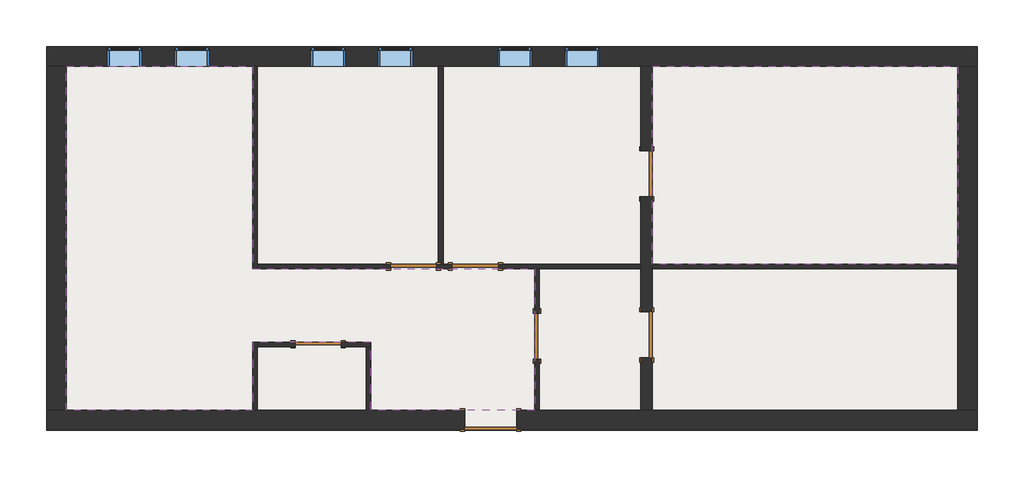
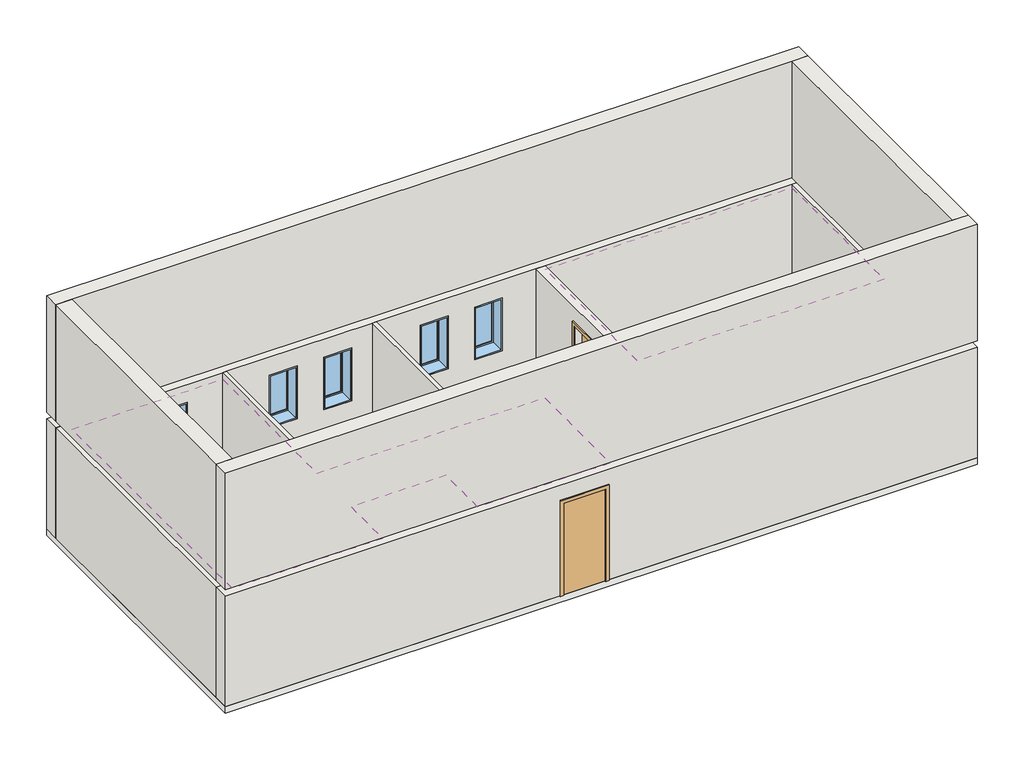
# One storey: 12 walls, 7 doors, 6 windows, 2 coverings, 1 slab.
"""IFC4 building model written with IfcOpenShell, lengths in millimetres."""

from ifc_helpers import new_model, si_unit, frame, origin, origin_with_axes, place, context, project, spatial, polyline, outline, extrude, faceted_brep, transform, mapped, element, save
from components import door_526e4cd8, door_eee9776d, door_cbe18f88, door_70678a7c, window_2c28ef1d

model = new_model("IFC4")

# Units and contexts
model_context = context("Model", 3, world=origin())
ifc_project = project(units=[si_unit("LENGTHUNIT", "METRE", prefix="MILLI")], contexts=[model_context])

# Site, building, storey
site = spatial("IfcSite", under=ifc_project)
building = spatial("IfcBuilding", under=site)
storey = spatial("IfcBuildingStorey", under=building, Name="Уровень 1", Elevation=0.0)

# Coverings
placement = place(None, origin())
element("IfcCovering", 1, ObjectType="Сетка 600 x 1200 мм", at=placement, inside=storey, context=model_context, shape_type="SweptSolid", body=[
    extrude(outline(polyline([(3475.0, 1300.0), (3475.0, 95.0), (175.0, 95.0), (175.0, 6175.0), (3475.0, 6175.0), (3475.0, 2595.0), (8455.0, 2595.0), (8455.0, 95.0), (5555.0, 95.0), (5555.0, 1300.0), (3475.0, 1300.0)])), frame((0.0, 0.0, 2400.0), z_axis=(0.0, 0.0, 1.0), x_axis=(1.0, 0.0, 0.0)), (0.0, 0.0, 1.0), 52.0),
])
element("IfcCovering", 2, ObjectType="Сетка 600 x 1200 мм", at=placement, inside=storey, context=model_context, shape_type="SweptSolid", body=[
    extrude(outline(polyline([(15935.0, 2675.0), (10535.0, 2675.0), (10535.0, 6175.0), (15935.0, 6175.0), (15935.0, 2675.0)])), frame((0.0, 0.0, 2473.0), z_axis=(0.0, 0.0, 1.0), x_axis=(1.0, 0.0, 0.0)), (0.0, 0.0, 1.0), 52.0),
])

# Doors
door_shape = door_526e4cd8(model_context)
element("IfcDoor", 3, ObjectType="Одиночные-Щитовые : 0813 x 2134 мм", at=placement, inside=storey, context=model_context, shape_type="MappedRepresentation", body=[
    mapped(door_shape, transform((6313.5, 2635.0, 0.0), x_axis=(1.0, 0.0, 0.0), y_axis=(0.0, 1.0, 0.0), z_axis=(0.0, 0.0, 1.0))),
])
element("IfcDoor", 4, ObjectType="Одиночные-Щитовые : 0813 x 2134 мм", at=placement, inside=storey, context=model_context, shape_type="MappedRepresentation", body=[
    mapped(door_shape, transform((4628.5, 1260.0, 0.0), x_axis=(1.0, 0.0, 0.0), y_axis=(0.0, 1.0, 0.0), z_axis=(0.0, 0.0, 1.0))),
])
door_2_shape = door_eee9776d(model_context)
element("IfcDoor", 5, ObjectType="Одиночные-Щитовые : 0813 x 2134 мм", at=placement, inside=storey, context=model_context, shape_type="MappedRepresentation", body=[
    mapped(door_2_shape, transform((8495.0, 1406.5, 0.0), x_axis=(0.0, -1.0, 0.0), y_axis=(1.0, 0.0, 0.0), z_axis=(0.0, 0.0, 1.0))),
])
element("IfcDoor", 6, ObjectType="Одиночные-Щитовые : 0813 x 2134 мм", at=placement, inside=storey, context=model_context, shape_type="MappedRepresentation", body=[
    mapped(door_2_shape, transform((7406.5, 2635.0, 0.0), x_axis=(-1.0, 0.0, 0.0), y_axis=(0.0, -1.0, 0.0), z_axis=(0.0, 0.0, 1.0))),
])
door_3_shape = door_cbe18f88(model_context)
element("IfcDoor", 7, ObjectType="Одиночные-Щитовые : 0813 x 2134 мм", at=placement, inside=storey, context=model_context, shape_type="MappedRepresentation", body=[
    mapped(door_3_shape, transform((10435.0, 1426.5, 0.0), x_axis=(0.0, -1.0, 0.0), y_axis=(1.0, 0.0, 0.0), z_axis=(0.0, 0.0, 1.0))),
])
element("IfcDoor", 8, ObjectType="Одиночные-Щитовые : 0813 x 2134 мм", at=placement, inside=storey, context=model_context, shape_type="MappedRepresentation", body=[
    mapped(door_3_shape, transform((10435.0, 4273.5, 0.0), x_axis=(0.0, -1.0, 0.0), y_axis=(1.0, 0.0, 0.0), z_axis=(0.0, 0.0, 1.0))),
])
door_4_shape = door_70678a7c(model_context)
element("IfcDoor", 9, ObjectType="Одиночные-Щитовые : 0915 x 2134 мм", at=placement, inside=storey, context=model_context, shape_type="MappedRepresentation", body=[
    mapped(door_4_shape, transform((7677.5, -80.0, 0.0), x_axis=(1.0, 0.0, 0.0), y_axis=(0.0, 1.0, 0.0), z_axis=(0.0, 0.0, 1.0))),
])

# Slab
element("IfcSlab", 10, ObjectType="Типовой 150мм", at=placement, inside=storey, context=model_context, shape_type="SweptSolid", body=[
    extrude(outline(polyline([(-175.0, 6525.0), (16285.0, 6525.0), (16285.0, -255.0), (-175.0, -255.0), (-175.0, 6525.0)])), frame((0.0, 0.0, -150.0), z_axis=(0.0, 0.0, 1.0), x_axis=(1.0, 0.0, 0.0)), (0.0, 0.0, 1.0), 150.0),
])

# Walls
element("IfcWall", 11, ObjectType="Наружный - Трехслойные панели с утеплителем толщиной 350 мм", at=placement, inside=storey, context=model_context, shape_type="Brep", body=[
    faceted_brep([(16285.0, -255.0, 5400.0), (-175.0, -255.0, 5400.0), (-175.0, -255.0, 2700.0), (16285.0, -255.0, 2700.0), (-175.0, 95.0, 5400.0), (175.0, 95.0, 5400.0), (15935.0, 95.0, 5400.0), (16285.0, 95.0, 5400.0), (16285.0, 95.0, 2700.0), (15935.0, 95.0, 2700.0), (11375.0, 95.0, 2700.0), (11175.0, 95.0, 2700.0), (175.0, 95.0, 2700.0), (-175.0, 95.0, 2700.0)], [[[0, 1, 2, 3]], [[4, 5, 6, 7, 8, 9, 10, 11, 12, 13]], [[1, 0, 7, 6, 5, 4]], [[1, 4, 13, 2]], [[7, 0, 3, 8]], [[3, 2, 13, 12, 11, 10, 9, 8]]]),
    faceted_brep([(8135.0, -255.0, 2134.0), (8135.0, -255.0, 0.0), (16285.0, -255.0, 0.0), (16285.0, -255.0, 2550.0), (-175.0, -255.0, 2550.0), (-175.0, -255.0, 0.0), (7220.0, -255.0, 0.0), (7220.0, -255.0, 2134.0), (8135.0, 95.0, 0.0), (8135.0, 95.0, 2134.0), (7220.0, 95.0, 2134.0), (7220.0, 95.0, 0.0), (5555.0, 95.0, 0.0), (5475.0, 95.0, 0.0), (3555.0, 95.0, 0.0), (3475.0, 95.0, 0.0), (175.0, 95.0, 0.0), (-175.0, 95.0, 0.0), (-175.0, 95.0, 2550.0), (175.0, 95.0, 2550.0), (3475.0, 95.0, 2550.0), (3555.0, 95.0, 2550.0), (5475.0, 95.0, 2550.0), (5555.0, 95.0, 2550.0), (8455.0, 95.0, 2550.0), (8535.0, 95.0, 2550.0), (10335.0, 95.0, 2550.0), (10535.0, 95.0, 2550.0), (15935.0, 95.0, 2550.0), (16285.0, 95.0, 2550.0), (16285.0, 95.0, 0.0), (15935.0, 95.0, 0.0), (10535.0, 95.0, 0.0), (10335.0, 95.0, 0.0), (8535.0, 95.0, 0.0), (8455.0, 95.0, 0.0)], [[[0, 1, 2, 3, 4, 5, 6, 7]], [[8, 9, 10, 11, 12, 13, 14, 15, 16, 17, 18, 19, 20, 21, 22, 23, 24, 25, 26, 27, 28, 29, 30, 31, 32, 33, 34, 35]], [[5, 17, 16, 15, 14, 13, 12, 11, 6]], [[1, 8, 35, 34, 33, 32, 31, 30, 2]], [[17, 5, 4, 18]], [[9, 8, 1, 0]], [[10, 9, 0, 7]], [[11, 10, 7, 6]], [[2, 30, 29, 3]], [[4, 3, 29, 28, 27, 26, 25, 24, 23, 22, 21, 20, 19, 18]]]),
])
element("IfcWall", 12, ObjectType="Типовой - 200мм", at=placement, inside=storey, context=model_context, shape_type="Brep", body=[
    faceted_brep([(10535.0, 1833.0, 0.0), (10535.0, 2595.0, 0.0), (10535.0, 2675.0, 0.0), (10535.0, 3867.0, 0.0), (10535.0, 3867.0, 2134.0), (10535.0, 4680.0, 2134.0), (10535.0, 4680.0, 0.0), (10535.0, 6175.0, 0.0), (10535.0, 6175.0, 2550.0), (10535.0, 2675.0, 2550.0), (10535.0, 2595.0, 2550.0), (10535.0, 95.0, 2550.0), (10535.0, 95.0, 0.0), (10535.0, 1020.0, 0.0), (10535.0, 1020.0, 2134.0), (10535.0, 1833.0, 2134.0), (10335.0, 3867.0, 2134.0), (10335.0, 3867.0, 0.0), (10335.0, 2675.0, 0.0), (10335.0, 2595.0, 0.0), (10335.0, 1833.0, 0.0), (10335.0, 1833.0, 2134.0), (10335.0, 1020.0, 2134.0), (10335.0, 1020.0, 0.0), (10335.0, 95.0, 0.0), (10335.0, 95.0, 2550.0), (10335.0, 2595.0, 2550.0), (10335.0, 2675.0, 2550.0), (10335.0, 6175.0, 2550.0), (10335.0, 6175.0, 0.0), (10335.0, 4680.0, 0.0), (10335.0, 4680.0, 2134.0)], [[[0, 1, 2, 3, 4, 5, 6, 7, 8, 9, 10, 11, 12, 13, 14, 15]], [[16, 17, 18, 19, 20, 21, 22, 23, 24, 25, 26, 27, 28, 29, 30, 31]], [[24, 23, 13, 12]], [[30, 29, 7, 6]], [[20, 19, 18, 17, 3, 2, 1, 0]], [[11, 10, 9, 8, 28, 27, 26, 25]], [[12, 11, 25, 24]], [[8, 7, 29, 28]], [[14, 13, 23, 22]], [[15, 14, 22, 21]], [[0, 15, 21, 20]], [[4, 3, 17, 16]], [[5, 4, 16, 31]], [[6, 5, 31, 30]]]),
])
element("IfcWall", 13, ObjectType="Наружный - Трехслойные панели с утеплителем толщиной 350 мм", at=placement, inside=storey, context=model_context, shape_type="Brep", body=[
    faceted_brep([(16285.0, 6525.0, 0.0), (-175.0, 6525.0, 0.0), (-175.0, 6525.0, 2550.0), (16285.0, 6525.0, 2550.0), (8989.4055139, 6525.0, 2135.0), (8989.4055139, 6525.0, 915.0), (9599.4055139, 6525.0, 915.0), (9599.4055139, 6525.0, 2135.0), (7799.4055139, 6525.0, 2135.0), (7799.4055139, 6525.0, 915.0), (8409.4055139, 6525.0, 915.0), (8409.4055139, 6525.0, 2135.0), (5689.0, 6525.0, 2135.0), (5689.0, 6525.0, 915.0), (6299.0, 6525.0, 915.0), (6299.0, 6525.0, 2135.0), (4499.0, 6525.0, 2135.0), (4499.0, 6525.0, 915.0), (5109.0, 6525.0, 915.0), (5109.0, 6525.0, 2135.0), (2089.0, 6525.0, 2135.0), (2089.0, 6525.0, 915.0), (2699.0, 6525.0, 915.0), (2699.0, 6525.0, 2135.0), (899.0, 6525.0, 2135.0), (899.0, 6525.0, 915.0), (1509.0, 6525.0, 915.0), (1509.0, 6525.0, 2135.0), (-175.0, 6175.0, 0.0), (175.0, 6175.0, 0.0), (3475.0, 6175.0, 0.0), (3555.0, 6175.0, 0.0), (6755.0, 6175.0, 0.0), (6835.0, 6175.0, 0.0), (10335.0, 6175.0, 0.0), (10535.0, 6175.0, 0.0), (15935.0, 6175.0, 0.0), (16285.0, 6175.0, 0.0), (16285.0, 6175.0, 2550.0), (15935.0, 6175.0, 2550.0), (10535.0, 6175.0, 2550.0), (10335.0, 6175.0, 2550.0), (6835.0, 6175.0, 2550.0), (6755.0, 6175.0, 2550.0), (3555.0, 6175.0, 2550.0), (3475.0, 6175.0, 2550.0), (175.0, 6175.0, 2550.0), (-175.0, 6175.0, 2550.0), (8989.4055139, 6175.0, 915.0), (8989.4055139, 6175.0, 2135.0), (9599.4055139, 6175.0, 2135.0), (9599.4055139, 6175.0, 915.0), (7799.4055139, 6175.0, 915.0), (7799.4055139, 6175.0, 2135.0), (8409.4055139, 6175.0, 2135.0), (8409.4055139, 6175.0, 915.0), (5689.0, 6175.0, 915.0), (5689.0, 6175.0, 2135.0), (6299.0, 6175.0, 2135.0), (6299.0, 6175.0, 915.0), (4499.0, 6175.0, 915.0), (4499.0, 6175.0, 2135.0), (5109.0, 6175.0, 2135.0), (5109.0, 6175.0, 915.0), (2089.0, 6175.0, 915.0), (2089.0, 6175.0, 2135.0), (2699.0, 6175.0, 2135.0), (2699.0, 6175.0, 915.0), (899.0, 6175.0, 915.0), (899.0, 6175.0, 2135.0), (1509.0, 6175.0, 2135.0), (1509.0, 6175.0, 915.0)], [[[0, 1, 2, 3], [4, 5, 6, 7], [8, 9, 10, 11], [12, 13, 14, 15], [16, 17, 18, 19], [20, 21, 22, 23], [24, 25, 26, 27]], [[28, 29, 30, 31, 32, 33, 34, 35, 36, 37, 38, 39, 40, 41, 42, 43, 44, 45, 46, 47], [48, 49, 50, 51], [52, 53, 54, 55], [56, 57, 58, 59], [60, 61, 62, 63], [64, 65, 66, 67], [68, 69, 70, 71]], [[1, 0, 37, 36, 35, 34, 33, 32, 31, 30, 29, 28]], [[1, 28, 47, 2]], [[48, 5, 4, 49]], [[6, 51, 50, 7]], [[5, 48, 51, 6]], [[52, 9, 8, 53]], [[10, 55, 54, 11]], [[9, 52, 55, 10]], [[56, 13, 12, 57]], [[14, 59, 58, 15]], [[13, 56, 59, 14]], [[60, 17, 16, 61]], [[18, 63, 62, 19]], [[17, 60, 63, 18]], [[64, 21, 20, 65]], [[22, 67, 66, 23]], [[21, 64, 67, 22]], [[68, 25, 24, 69]], [[26, 71, 70, 27]], [[25, 68, 71, 26]], [[7, 50, 49, 4]], [[11, 54, 53, 8]], [[15, 58, 57, 12]], [[19, 62, 61, 16]], [[23, 66, 65, 20]], [[27, 70, 69, 24]], [[37, 0, 3, 38]], [[3, 2, 47, 46, 45, 44, 43, 42, 41, 40, 39, 38]]]),
    faceted_brep([(-175.0, 6525.0, 5400.0), (16285.0, 6525.0, 5400.0), (16285.0, 6525.0, 2700.0), (-175.0, 6525.0, 2700.0), (16285.0, 6175.0, 5400.0), (15935.0, 6175.0, 5400.0), (175.0, 6175.0, 5400.0), (-175.0, 6175.0, 5400.0), (-175.0, 6175.0, 2700.0), (175.0, 6175.0, 2700.0), (11175.0, 6175.0, 2700.0), (11375.0, 6175.0, 2700.0), (15935.0, 6175.0, 2700.0), (16285.0, 6175.0, 2700.0)], [[[0, 1, 2, 3]], [[4, 5, 6, 7, 8, 9, 10, 11, 12, 13]], [[1, 0, 7, 6, 5, 4]], [[7, 0, 3, 8]], [[1, 4, 13, 2]], [[3, 2, 13, 12, 11, 10, 9, 8]]]),
])
element("IfcWall", 14, ObjectType="Наружный - Трехслойные панели с утеплителем толщиной 350 мм", at=placement, inside=storey, context=model_context, shape_type="SweptSolid", body=[
    extrude(outline(polyline([(-175.0, 95.0), (-175.0, 6175.0), (175.0, 6175.0), (175.0, 95.0), (-175.0, 95.0)])), origin_with_axes(), (0.0, 0.0, 1.0), 2550.0),
    extrude(outline(polyline([(-175.0, 95.0), (-175.0, 6175.0), (175.0, 6175.0), (175.0, 95.0), (-175.0, 95.0)])), frame((0.0, 0.0, 2700.0), z_axis=(0.0, 0.0, 1.0), x_axis=(1.0, 0.0, 0.0)), (0.0, 0.0, 1.0), 2700.0),
])
element("IfcWall", 15, ObjectType="Внутренние - Перегородка гипсовых пазогребневых плит толщиной 80 мм", at=placement, inside=storey, context=model_context, shape_type="Brep", body=[
    faceted_brep([(3475.0, 6175.0, 0.0), (3475.0, 2595.0, 0.0), (3475.0, 2595.0, 2550.0), (3475.0, 6175.0, 2550.0), (3555.0, 6175.0, 0.0), (3555.0, 6175.0, 2550.0), (3555.0, 2675.0, 2550.0), (3555.0, 2595.0, 2550.0), (3555.0, 2595.0, 0.0), (3555.0, 2675.0, 0.0)], [[[0, 1, 2, 3]], [[4, 5, 6, 7, 8, 9]], [[1, 0, 4, 9, 8]], [[3, 2, 7, 6, 5]], [[0, 3, 5, 4]], [[2, 1, 8, 7]]]),
])
element("IfcWall", 16, ObjectType="Внутренние - Перегородка гипсовых пазогребневых плит толщиной 80 мм", at=placement, inside=storey, context=model_context, shape_type="Brep", body=[
    faceted_brep([(3555.0, 2595.0, 2550.0), (3555.0, 2595.0, 0.0), (5907.0, 2595.0, 0.0), (5907.0, 2595.0, 2134.0), (6720.0, 2595.0, 2134.0), (6720.0, 2595.0, 0.0), (7000.0, 2595.0, 0.0), (7000.0, 2595.0, 2134.0), (7813.0, 2595.0, 2134.0), (7813.0, 2595.0, 0.0), (8455.0, 2595.0, 0.0), (8535.0, 2595.0, 0.0), (10335.0, 2595.0, 0.0), (10335.0, 2595.0, 2550.0), (8535.0, 2595.0, 2550.0), (8455.0, 2595.0, 2550.0), (3555.0, 2675.0, 0.0), (3555.0, 2675.0, 2550.0), (6755.0, 2675.0, 2550.0), (6835.0, 2675.0, 2550.0), (10335.0, 2675.0, 2550.0), (10335.0, 2675.0, 0.0), (7813.0, 2675.0, 0.0), (7813.0, 2675.0, 2134.0), (7000.0, 2675.0, 2134.0), (7000.0, 2675.0, 0.0), (6835.0, 2675.0, 0.0), (6755.0, 2675.0, 0.0), (6720.0, 2675.0, 0.0), (6720.0, 2675.0, 2134.0), (5907.0, 2675.0, 2134.0), (5907.0, 2675.0, 0.0)], [[[0, 1, 2, 3, 4, 5, 6, 7, 8, 9, 10, 11, 12, 13, 14, 15]], [[16, 17, 18, 19, 20, 21, 22, 23, 24, 25, 26, 27, 28, 29, 30, 31]], [[1, 16, 31, 2]], [[5, 28, 27, 26, 25, 6]], [[9, 22, 21, 12, 11, 10]], [[17, 0, 15, 14, 13, 20, 19, 18]], [[1, 0, 17, 16]], [[29, 28, 5, 4]], [[30, 29, 4, 3]], [[31, 30, 3, 2]], [[7, 6, 25, 24]], [[8, 7, 24, 23]], [[9, 8, 23, 22]], [[13, 12, 21, 20]]]),
    faceted_brep([(15935.0, 2595.0, 0.0), (15935.0, 2595.0, 2550.0), (10535.0, 2595.0, 2550.0), (10535.0, 2595.0, 0.0), (15935.0, 2675.0, 2550.0), (15935.0, 2675.0, 0.0), (10535.0, 2675.0, 0.0), (10535.0, 2675.0, 2550.0)], [[[0, 1, 2, 3]], [[4, 5, 6, 7]], [[5, 0, 3, 6]], [[1, 4, 7, 2]], [[3, 2, 7, 6]], [[1, 0, 5, 4]]]),
])
element("IfcWall", 17, ObjectType="Внутренние - Перегородка гипсовых пазогребневых плит толщиной 80 мм", at=placement, inside=storey, context=model_context, shape_type="SweptSolid", body=[
    extrude(outline(polyline([(6835.0, 6175.0), (6835.0, 2675.0), (6755.0, 2675.0), (6755.0, 6175.0), (6835.0, 6175.0)])), origin_with_axes(), (0.0, 0.0, 1.0), 2550.0),
])
element("IfcWall", 18, ObjectType="Внутренние - Перегородка гипсовых пазогребневых плит толщиной 80 мм", at=placement, inside=storey, context=model_context, shape_type="Brep", body=[
    faceted_brep([(3555.0, 95.0, 0.0), (3555.0, 1220.0, 0.0), (3555.0, 1300.0, 0.0), (3555.0, 1300.0, 2550.0), (3555.0, 1220.0, 2550.0), (3555.0, 95.0, 2550.0), (3475.0, 95.0, 0.0), (3475.0, 95.0, 2550.0), (3475.0, 1300.0, 2550.0), (3475.0, 1300.0, 0.0)], [[[0, 1, 2, 3, 4, 5]], [[6, 7, 8, 9]], [[2, 1, 0, 6, 9]], [[5, 4, 3, 8, 7]], [[0, 5, 7, 6]], [[3, 2, 9, 8]]]),
])
element("IfcWall", 19, ObjectType="Внутренние - Перегородка гипсовых пазогребневых плит толщиной 80 мм", at=placement, inside=storey, context=model_context, shape_type="Brep", body=[
    faceted_brep([(5035.0, 1220.0, 2134.0), (5035.0, 1220.0, 0.0), (5475.0, 1220.0, 0.0), (5555.0, 1220.0, 0.0), (5555.0, 1220.0, 2550.0), (5475.0, 1220.0, 2550.0), (3555.0, 1220.0, 2550.0), (3555.0, 1220.0, 0.0), (4222.0, 1220.0, 0.0), (4222.0, 1220.0, 2134.0), (5555.0, 1300.0, 0.0), (5035.0, 1300.0, 0.0), (5035.0, 1300.0, 2134.0), (4222.0, 1300.0, 2134.0), (4222.0, 1300.0, 0.0), (3555.0, 1300.0, 0.0), (3555.0, 1300.0, 2550.0), (5555.0, 1300.0, 2550.0)], [[[0, 1, 2, 3, 4, 5, 6, 7, 8, 9]], [[10, 11, 12, 13, 14, 15, 16, 17]], [[8, 7, 15, 14]], [[3, 2, 1, 11, 10]], [[6, 5, 4, 17, 16]], [[7, 6, 16, 15]], [[12, 11, 1, 0]], [[13, 12, 0, 9]], [[14, 13, 9, 8]], [[4, 3, 10, 17]]]),
])
element("IfcWall", 20, ObjectType="Внутренние - Перегородка гипсовых пазогребневых плит толщиной 80 мм", at=placement, inside=storey, context=model_context, shape_type="SweptSolid", body=[
    extrude(outline(polyline([(5555.0, 1220.0), (5555.0, 95.0), (5475.0, 95.0), (5475.0, 1220.0), (5555.0, 1220.0)])), origin_with_axes(), (0.0, 0.0, 1.0), 2550.0),
])
element("IfcWall", 21, ObjectType="Внутренние - Перегородка гипсовых пазогребневых плит толщиной 80 мм", at=placement, inside=storey, context=model_context, shape_type="SweptSolid", body=[
    extrude(outline(polyline([(1000.0, 2134.0), (1000.0, 0.0), (95.0, 0.0), (95.0, 2550.0), (2595.0, 2550.0), (2595.0, 0.0), (1813.0, 0.0), (1813.0, 2134.0), (1000.0, 2134.0)])), frame((8455.0, 0.0, 0.0), z_axis=(1.0, 0.0, 0.0), x_axis=(0.0, 1.0, 0.0)), (0.0, 0.0, 1.0), 80.0),
])
element("IfcWall", 22, ObjectType="Наружный - Трехслойные панели с утеплителем толщиной 350 мм", at=placement, inside=storey, context=model_context, shape_type="Brep", body=[
    faceted_brep([(16285.0, 95.0, 0.0), (16285.0, 6175.0, 0.0), (16285.0, 6175.0, 2550.0), (16285.0, 95.0, 2550.0), (15935.0, 6175.0, 0.0), (15935.0, 2675.0, 0.0), (15935.0, 2595.0, 0.0), (15935.0, 95.0, 0.0), (15935.0, 95.0, 2550.0), (15935.0, 2595.0, 2550.0), (15935.0, 2675.0, 2550.0), (15935.0, 6175.0, 2550.0)], [[[0, 1, 2, 3]], [[4, 5, 6, 7, 8, 9, 10, 11]], [[1, 0, 7, 6, 5, 4]], [[7, 0, 3, 8]], [[1, 4, 11, 2]], [[3, 2, 11, 10, 9, 8]]]),
    faceted_brep([(16285.0, 6175.0, 5400.0), (16285.0, 95.0, 5400.0), (16285.0, 95.0, 2700.0), (16285.0, 6175.0, 2700.0), (15935.0, 95.0, 5400.0), (15935.0, 6175.0, 5400.0), (15935.0, 6175.0, 2700.0), (15935.0, 95.0, 2700.0)], [[[0, 1, 2, 3]], [[4, 5, 6, 7]], [[1, 0, 5, 4]], [[1, 4, 7, 2]], [[5, 0, 3, 6]], [[3, 2, 7, 6]]]),
])

# Windows
window_shape = window_2c28ef1d(model_context)
element("IfcWindow", 23, ObjectType="Фиксированные : 0610 x 1220 мм", at=placement, inside=storey, context=model_context, shape_type="MappedRepresentation", body=[
    mapped(window_shape, transform((1204.0, 6337.0, 0.0), x_axis=(1.0, 0.0, 0.0), y_axis=(0.0, 1.0, 0.0), z_axis=(0.0, 0.0, 1.0))),
])
element("IfcWindow", 24, ObjectType="Фиксированные : 0610 x 1220 мм", at=placement, inside=storey, context=model_context, shape_type="MappedRepresentation", body=[
    mapped(window_shape, transform((2394.0, 6337.0, 0.0), x_axis=(1.0, 0.0, 0.0), y_axis=(0.0, 1.0, 0.0), z_axis=(0.0, 0.0, 1.0))),
])
element("IfcWindow", 25, ObjectType="Фиксированные : 0610 x 1220 мм", at=placement, inside=storey, context=model_context, shape_type="MappedRepresentation", body=[
    mapped(window_shape, transform((4804.0, 6337.0, 0.0), x_axis=(1.0, 0.0, 0.0), y_axis=(0.0, 1.0, 0.0), z_axis=(0.0, 0.0, 1.0))),
])
element("IfcWindow", 26, ObjectType="Фиксированные : 0610 x 1220 мм", at=placement, inside=storey, context=model_context, shape_type="MappedRepresentation", body=[
    mapped(window_shape, transform((5994.0, 6337.0, 0.0), x_axis=(1.0, 0.0, 0.0), y_axis=(0.0, 1.0, 0.0), z_axis=(0.0, 0.0, 1.0))),
])
element("IfcWindow", 27, ObjectType="Фиксированные : 0610 x 1220 мм", at=placement, inside=storey, context=model_context, shape_type="MappedRepresentation", body=[
    mapped(window_shape, transform((8104.4055139, 6337.0, 0.0), x_axis=(1.0, 0.0, 0.0), y_axis=(0.0, 1.0, 0.0), z_axis=(0.0, 0.0, 1.0))),
])
element("IfcWindow", 28, ObjectType="Фиксированные : 0610 x 1220 мм", at=placement, inside=storey, context=model_context, shape_type="MappedRepresentation", body=[
    mapped(window_shape, transform((9294.4055139, 6337.0, 0.0), x_axis=(1.0, 0.0, 0.0), y_axis=(0.0, 1.0, 0.0), z_axis=(0.0, 0.0, 1.0))),
])

save(model, "model.ifc")
